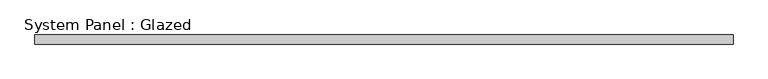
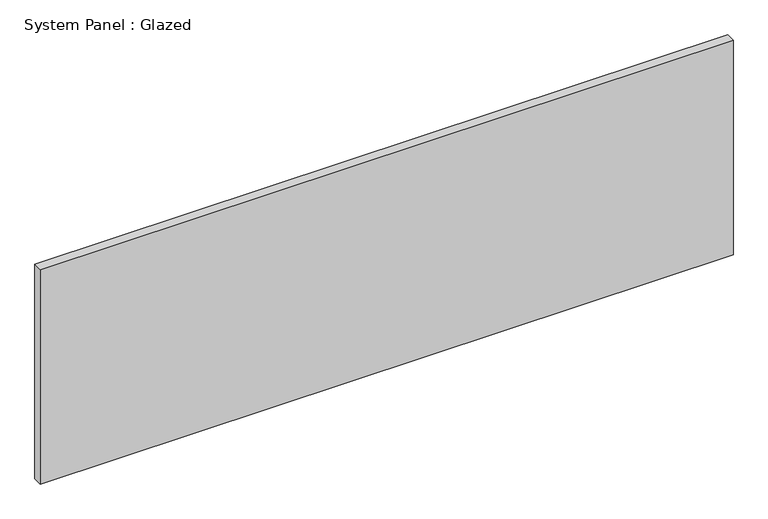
"""IFC4 building model written with IfcOpenShell, lengths in millimetres: plate geometry, System Panel : Glazed."""

from ifc_helpers import new_model, si_unit, origin, origin_with_axes, place, context, project, spatial, polyline, outline, extrude, source, transform, mapped, element, save


def system_panel_glazed_768c668e(model_context):
    return source(origin(), model_context, "Body", "SweptSolid", [
        extrude(outline(polyline([(955.0, -49.5), (-955.0, -49.5), (-955.0, -24.5), (955.0, -24.5), (955.0, -49.5)])), origin_with_axes(), (0.0, 0.0, 1.0), 625.0),
    ])


if __name__ == "__main__":
    model = new_model("IFC4")
    model_context = context("Model", 3, world=origin())
    ifc_project = project(units=[si_unit("LENGTHUNIT", "METRE", prefix="MILLI")], contexts=[model_context])
    site = spatial("IfcSite", under=ifc_project)
    building = spatial("IfcBuilding", under=site)
    placement = place(None, origin())
    system_panel_glazed_shape = system_panel_glazed_768c668e(model_context)
    element("IfcPlate", 1, ObjectType="System Panel : Glazed", at=placement, inside=building, context=model_context, shape_type="MappedRepresentation", body=[
        mapped(system_panel_glazed_shape, transform((0.0, 0.0, 0.0), x_axis=(1.0, 0.0, 0.0), y_axis=(0.0, 1.0, 0.0), z_axis=(0.0, 0.0, 1.0))),
    ])
    save(model, "model.ifc")
